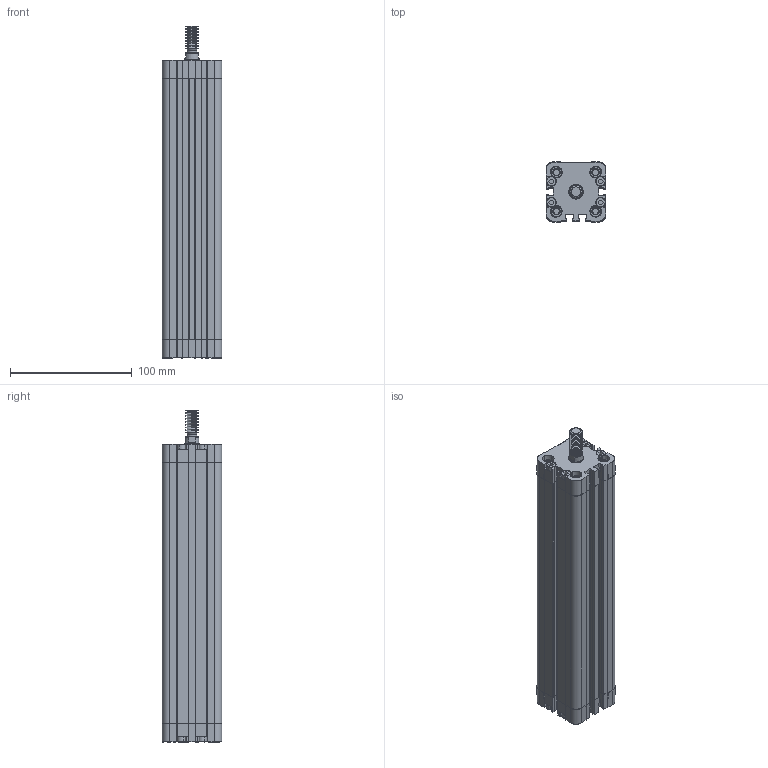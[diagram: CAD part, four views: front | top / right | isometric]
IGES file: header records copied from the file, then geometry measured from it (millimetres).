
Start section: SolidWorks IGES file using analytic representation for surfaces
Global section: file name: W:\_ALTRO\CATALOGO 3D\CYLINDERS\NSK\032\IGES\NSKU 032\NSKU 032 M\NSKU032.0200 M.IGS; native system: SolidWorks 2009; preprocessor: SolidWorks 2009; author: utente03; date: 110613.150848; units: millimetre
Bounding box: 49.2 x 49.2 x 272.5 mm (x, y, z)
Surface area: 122856.9 mm2 (no closed solid volume)
Topology: 0 solids, 0 shells, 1117 faces, 10738 edges, 10722 vertices
Faces by surface type: revolution 586, bspline 531
